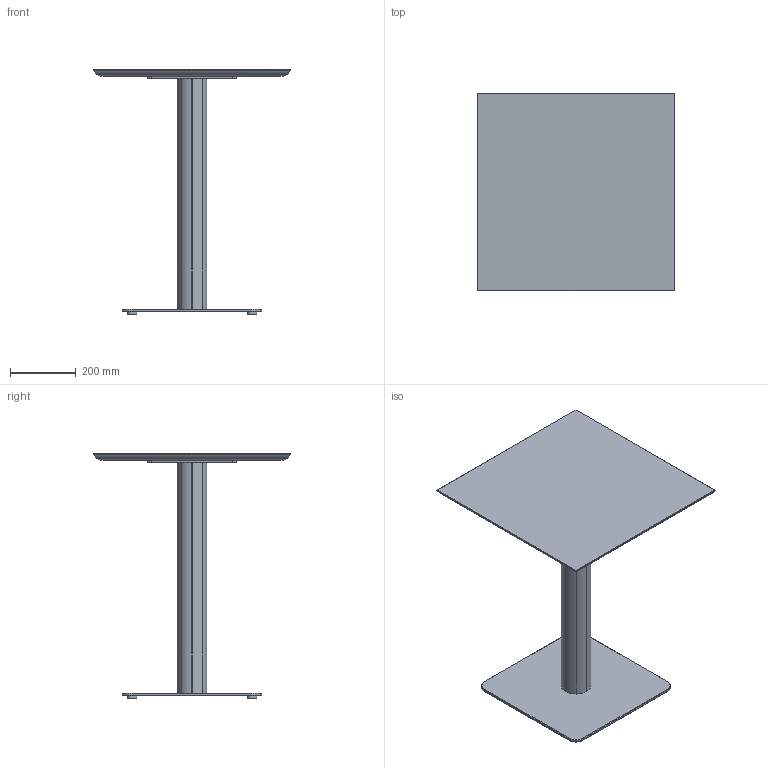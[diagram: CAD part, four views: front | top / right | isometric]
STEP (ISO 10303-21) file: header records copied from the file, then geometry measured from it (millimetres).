
FILE_DESCRIPTION( ('This file contains a STEP AP42 implementation' ,'as created by ZW3D STEP Interface translator.') ,'2;1' );
FILE_NAME( 'Fut - B_Carré - F4 - M3 - 600 x 600 x 750.stp' ,'24 911.163456', (''), ('ZWCAD Software Co.'), 'Version 1.0', 'ZW3D to STEP translator', '' );
FILE_SCHEMA(('AUTOMOTIVE_DESIGN { 1 0 10303 214 1 1 1 1 }'));
Length unit declared in the file: millimetre
Products named in the file (15): 0; PIED BISTROT PARAMETRIQUE_; CROIX ACIER 370 V.02_; CRX-X370-02_; SOCLE ACIER L 425x425 V.02_; SCL-R425-02_; PLA-R30A-01_; PLA-R30A-01; COLONNE ACIER Ø48.5 V.02_; TUB-D048-02_; PLA-R48A-01_; COLONNE BOIS PARAMETIQUE_; WUERTH 0276063020 Euro-screw 6.3x2 Verzinkt_; PLATEAU BISTROT PARAMETRIQUE_; insert_m6_13_
Assembly tree (23 placements, depth 3):
  0
  PIED BISTROT PARAMETRIQUE_
    CROIX ACIER 370 V.02_
      CRX-X370-02_
    SOCLE ACIER L 425x425 V.02_
      SCL-R425-02_
      PLA-R30A-01_
      PLA-R30A-01  x3
    COLONNE ACIER Ø48.5 V.02_
      TUB-D048-02_
      PLA-R48A-01_  x2
    COLONNE BOIS PARAMETIQUE_
    WUERTH 0276063020 Euro-screw 6.3x2 Verzinkt_
    PLATEAU BISTROT PARAMETRIQUE_
      insert_m6_13_  x8
Bounding box: 600 x 600 x 744 mm (x, y, z)
Volume: 11787038.7 mm3; surface area: 1902820.7 mm2
Topology: 23 solids, 23 shells, 557 faces, 1354 edges, 850 vertices
Faces by surface type: plane 278, bspline 125, cylinder 108, cone 45, torus 1
Full cylindrical faces by diameter (mm): 4.88 x1, 6 x8, 6.3 x1, 8 x45, 12 x2, 14 x2, 30 x4, 44.5 x3, 48.5 x1
Entity records: 13051 total; most frequent: CARTESIAN_POINT 3597, ORIENTED_EDGE 1722, DIRECTION 1592, EDGE_CURVE 861, VERTEX_POINT 552, VECTOR 550, LINE 550, AXIS2_PLACEMENT_3D 521
